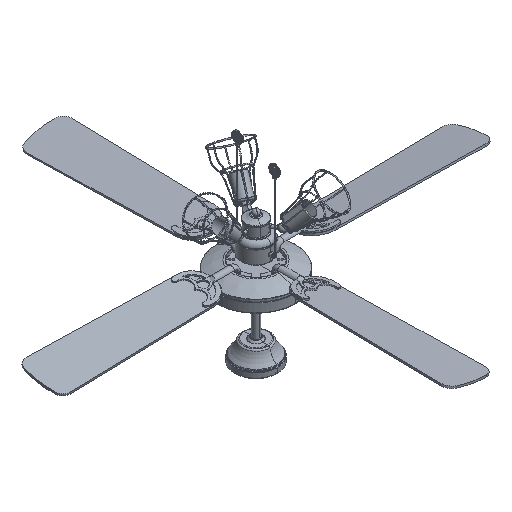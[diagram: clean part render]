
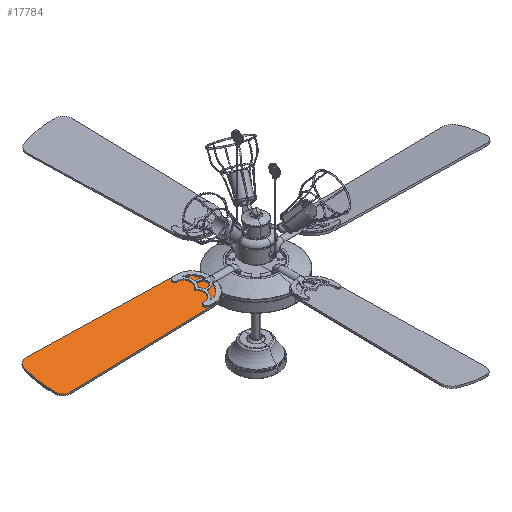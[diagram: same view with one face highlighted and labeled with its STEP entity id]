
A CAD part, isometric view. The second image highlights one B-rep face of the part: STEP entity #17784.
In plain terms, the highlighted planar face has unit normal (0, -0.174, 0.985).
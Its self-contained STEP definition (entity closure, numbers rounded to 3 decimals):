
#2270=PLANE('',#19051);
#2611=FACE_OUTER_BOUND('',#3785,.T.);
#3785=EDGE_LOOP('',(#12243,#12244,#12245,#12246,#12247,#12248));
#5021=CIRCLE('',#19039,262.591);
#5023=CIRCLE('',#19042,27.316);
#5025=CIRCLE('',#19046,58.688);
#5027=CIRCLE('',#19050,27.316);
#5621=LINE('',#25415,#6536);
#5625=LINE('',#25427,#6540);
#6536=VECTOR('',#20954,304.8);
#6540=VECTOR('',#20966,304.8);
#7470=VERTEX_POINT('',#25397);
#7472=VERTEX_POINT('',#25401);
#7474=VERTEX_POINT('',#25407);
#7476=VERTEX_POINT('',#25413);
#7478=VERTEX_POINT('',#25419);
#7480=VERTEX_POINT('',#25425);
#9283=EDGE_CURVE('',#7470,#7472,#5021,.T.);
#9286=EDGE_CURVE('',#7472,#7474,#5023,.T.);
#9289=EDGE_CURVE('',#7474,#7476,#5621,.T.);
#9292=EDGE_CURVE('',#7476,#7478,#5025,.T.);
#9295=EDGE_CURVE('',#7478,#7480,#5625,.T.);
#9297=EDGE_CURVE('',#7480,#7470,#5027,.T.);
#12243=ORIENTED_EDGE('',*,*,#9295,.T.);
#12244=ORIENTED_EDGE('',*,*,#9297,.T.);
#12245=ORIENTED_EDGE('',*,*,#9283,.T.);
#12246=ORIENTED_EDGE('',*,*,#9286,.T.);
#12247=ORIENTED_EDGE('',*,*,#9289,.T.);
#12248=ORIENTED_EDGE('',*,*,#9292,.T.);
#17784=ADVANCED_FACE('',(#2611),#2270,.F.);
#19039=AXIS2_PLACEMENT_3D('',#25403,#20941,#20942);
#19042=AXIS2_PLACEMENT_3D('',#25409,#20948,#20949);
#19046=AXIS2_PLACEMENT_3D('',#25421,#20960,#20961);
#19050=AXIS2_PLACEMENT_3D('',#25430,#20971,#20972);
#19051=AXIS2_PLACEMENT_3D('',#25431,#20973,#20974);
#20941=DIRECTION('center_axis',(0.,-0.174,
0.985));
#20942=DIRECTION('ref_axis',(0.,-0.985,-0.174));
#20948=DIRECTION('center_axis',(0.,-0.174,
0.985));
#20949=DIRECTION('ref_axis',(0.,0.985,0.174));
#20954=DIRECTION('',(1.,0.022,0.004));
#20960=DIRECTION('center_axis',(0.,-0.174,
0.985));
#20961=DIRECTION('ref_axis',(0.,-0.985,-0.174));
#20966=DIRECTION('',(-1.,0.022,0.004));
#20971=DIRECTION('center_axis',(0.,-0.174,
0.985));
#20972=DIRECTION('ref_axis',(0.,-0.985,-0.174));
#20973=DIRECTION('center_axis',(0.,0.174,
-0.985));
#20974=DIRECTION('ref_axis',(-1.,0.,0.));
#25397=CARTESIAN_POINT('',(-658.108,46.101,287.477));
#25401=CARTESIAN_POINT('',(-658.108,-44.712,271.465));
#25403=CARTESIAN_POINT('Origin',(-399.597,0.695,279.471));
#25407=CARTESIAN_POINT('',(-630.608,-66.883,267.555));
#25409=CARTESIAN_POINT('Origin',(-631.217,-39.988,272.297));
#25413=CARTESIAN_POINT('',(-185.289,-57.102,269.28));
#25415=CARTESIAN_POINT('',(-630.608,-66.883,267.555));
#25419=CARTESIAN_POINT('',(-185.289,58.491,289.662));
#25421=CARTESIAN_POINT('Origin',(-185.289,0.695,279.471));
#25425=CARTESIAN_POINT('',(-630.608,68.272,291.387));
#25427=CARTESIAN_POINT('',(-185.289,58.491,289.662));
#25430=CARTESIAN_POINT('Origin',(-631.217,41.378,286.644));
#25431=CARTESIAN_POINT('Origin',(-185.289,-57.102,269.28));
